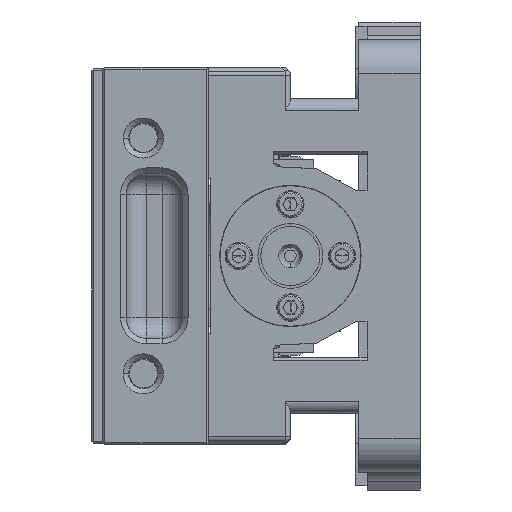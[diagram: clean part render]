
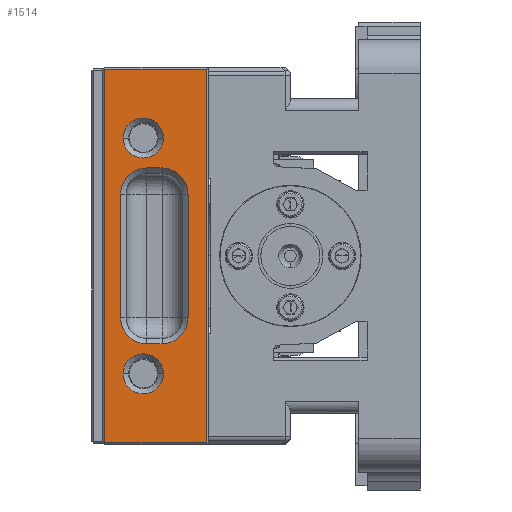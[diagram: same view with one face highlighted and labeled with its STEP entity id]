
A CAD part, left-side view. The second image highlights one B-rep face of the part: STEP entity #1514.
In plain terms, the highlighted planar face has unit normal (-1, 0, 0).
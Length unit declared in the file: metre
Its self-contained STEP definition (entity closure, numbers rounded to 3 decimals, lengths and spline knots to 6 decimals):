
#1514=ADVANCED_FACE('0:4746',(#3368,#3369,#3370,#3371),#3372,.T.);
#3368=FACE_OUTER_BOUND('',#6232,.T.);
#3369=FACE_BOUND('',#6233,.T.);
#3370=FACE_BOUND('',#6234,.T.);
#3371=FACE_BOUND('',#6235,.T.);
#3372=PLANE('',#6236);
#6232=EDGE_LOOP('',(#12121,#12122,#12123,#12124));
#6233=EDGE_LOOP('',(#12125,#12126));
#6234=EDGE_LOOP('',(#12127,#12128));
#6235=EDGE_LOOP('',(#12129,#12130,#12131,#12132,#12133,#12134,#12135,#12136));
#6236=AXIS2_PLACEMENT_3D('',#12137,#12138,#12139);
#12121=ORIENTED_EDGE('',*,*,#17786,.T.);
#12122=ORIENTED_EDGE('',*,*,#17737,.T.);
#12123=ORIENTED_EDGE('',*,*,#17762,.T.);
#12124=ORIENTED_EDGE('',*,*,#17882,.T.);
#12125=ORIENTED_EDGE('',*,*,#17686,.F.);
#12126=ORIENTED_EDGE('',*,*,#17699,.F.);
#12127=ORIENTED_EDGE('',*,*,#17679,.F.);
#12128=ORIENTED_EDGE('',*,*,#17701,.F.);
#12129=ORIENTED_EDGE('',*,*,#17833,.F.);
#12130=ORIENTED_EDGE('',*,*,#17839,.F.);
#12131=ORIENTED_EDGE('',*,*,#17845,.F.);
#12132=ORIENTED_EDGE('',*,*,#17847,.F.);
#12133=ORIENTED_EDGE('',*,*,#17841,.F.);
#12134=ORIENTED_EDGE('',*,*,#17835,.F.);
#12135=ORIENTED_EDGE('',*,*,#17829,.F.);
#12136=ORIENTED_EDGE('',*,*,#17826,.F.);
#12137=CARTESIAN_POINT('',(-0.109499,0.085937,0.052324));
#12138=DIRECTION('',(-1.0,0.,0.));
#12139=DIRECTION('',(0.,1.0,0.0));
#17679=EDGE_CURVE('0:4896',#21631,#21633,#21634,.T.);
#17686=EDGE_CURVE('0:4890',#21644,#21646,#21647,.T.);
#17699=EDGE_CURVE('0:4890',#21646,#21644,#21664,.T.);
#17701=EDGE_CURVE('0:4896',#21633,#21631,#21666,.T.);
#17737=EDGE_CURVE('0:5040',#21707,#21720,#21722,.T.);
#17762=EDGE_CURVE('0:5115',#21720,#21762,#21764,.T.);
#17786=EDGE_CURVE('0:5187',#21804,#21707,#21805,.T.);
#17826=EDGE_CURVE('0:5307',#21864,#21867,#21868,.T.);
#17829=EDGE_CURVE('0:5316',#21867,#21872,#21873,.T.);
#17833=EDGE_CURVE('0:5328',#21877,#21864,#21880,.T.);
#17835=EDGE_CURVE('0:5334',#21872,#21882,#21883,.T.);
#17839=EDGE_CURVE('0:5346',#21887,#21877,#21890,.T.);
#17841=EDGE_CURVE('0:5352',#21882,#21892,#21893,.T.);
#17845=EDGE_CURVE('0:5364',#21897,#21887,#21900,.T.);
#17847=EDGE_CURVE('0:5370',#21892,#21897,#21902,.T.);
#17882=EDGE_CURVE('0:5475',#21762,#21804,#21953,.T.);
#21631=VERTEX_POINT('NONE',#26995);
#21633=VERTEX_POINT('',#26998);
#21634=CIRCLE('',#26999,0.005398);
#21644=VERTEX_POINT('NONE',#27012);
#21646=VERTEX_POINT('',#27015);
#21647=CIRCLE('',#27016,0.005398);
#21664=CIRCLE('',#27038,0.005398);
#21666=CIRCLE('',#27040,0.005398);
#21707=VERTEX_POINT('NONE',#27145);
#21720=VERTEX_POINT('NONE',#27164);
#21722=LINE('',#27167,#27168);
#21762=VERTEX_POINT('NONE',#27228);
#21764=LINE('',#27231,#27232);
#21804=VERTEX_POINT('NONE',#27292);
#21805=LINE('',#27293,#27294);
#21864=VERTEX_POINT('NONE',#27389);
#21867=VERTEX_POINT('NONE',#27393);
#21868=LINE('',#27394,#27395);
#21872=VERTEX_POINT('NONE',#27401);
#21873=CIRCLE('',#27402,0.007017);
#21877=VERTEX_POINT('NONE',#27407);
#21880=CIRCLE('',#27411,0.007017);
#21882=VERTEX_POINT('NONE',#27413);
#21883=LINE('',#27414,#27415);
#21887=VERTEX_POINT('NONE',#27421);
#21890=LINE('',#27425,#27426);
#21892=VERTEX_POINT('NONE',#27429);
#21893=CIRCLE('',#27430,0.007017);
#21897=VERTEX_POINT('NONE',#27435);
#21900=CIRCLE('',#27439,0.007017);
#21902=LINE('',#27441,#27442);
#21953=LINE('',#27515,#27516);
#26995=CARTESIAN_POINT('',(-0.109499,0.080463,0.03175));
#26998=CARTESIAN_POINT('',(-0.109499,0.069668,0.03175));
#26999=AXIS2_PLACEMENT_3D('',#32348,#32349,#32350);
#27012=CARTESIAN_POINT('',(-0.109499,0.080463,-0.03175));
#27015=CARTESIAN_POINT('',(-0.109499,0.069668,-0.03175));
#27016=AXIS2_PLACEMENT_3D('',#32361,#32362,#32363);
#27038=AXIS2_PLACEMENT_3D('',#32390,#32391,#32392);
#27040=AXIS2_PLACEMENT_3D('',#32396,#32397,#32398);
#27145=CARTESIAN_POINT('',(-0.109499,0.058124,-0.050292));
#27164=CARTESIAN_POINT('',(-0.109499,0.058124,0.050292));
#27167=CARTESIAN_POINT('',(-0.109499,0.058124,0.052324));
#27168=VECTOR('',#32458,1.0);
#27228=CARTESIAN_POINT('',(-0.109499,0.085429,0.050292));
#27231=CARTESIAN_POINT('',(-0.109499,0.085937,0.050292));
#27232=VECTOR('',#32489,1.0);
#27292=CARTESIAN_POINT('',(-0.109499,0.085429,-0.050292));
#27293=CARTESIAN_POINT('',(-0.109499,0.057616,-0.050292));
#27294=VECTOR('',#32519,1.0);
#27389=CARTESIAN_POINT('',(-0.109499,0.074157,-0.023686));
#27393=CARTESIAN_POINT('',(-0.109499,0.07003,-0.023686));
#27394=CARTESIAN_POINT('',(-0.109499,0.064474,-0.023686));
#27395=VECTOR('',#32563,1.0);
#27401=CARTESIAN_POINT('',(-0.109499,0.063013,-0.016669));
#27402=AXIS2_PLACEMENT_3D('',#32566,#32567,#32568);
#27407=CARTESIAN_POINT('',(-0.109499,0.081174,-0.016669));
#27411=AXIS2_PLACEMENT_3D('',#32574,#32575,#32576);
#27413=CARTESIAN_POINT('',(-0.109499,0.063013,0.016669));
#27414=CARTESIAN_POINT('',(-0.109499,0.063013,-0.022225));
#27415=VECTOR('',#32580,1.0);
#27421=CARTESIAN_POINT('',(-0.109499,0.081174,0.016669));
#27425=CARTESIAN_POINT('',(-0.109499,0.081174,-0.022225));
#27426=VECTOR('',#32584,1.0);
#27429=CARTESIAN_POINT('',(-0.109499,0.07003,0.023686));
#27430=AXIS2_PLACEMENT_3D('',#32586,#32587,#32588);
#27435=CARTESIAN_POINT('',(-0.109499,0.074157,0.023686));
#27439=AXIS2_PLACEMENT_3D('',#32594,#32595,#32596);
#27441=CARTESIAN_POINT('',(-0.109499,0.064474,0.023686));
#27442=VECTOR('',#32600,1.0);
#27515=CARTESIAN_POINT('',(-0.109499,0.085429,0.052324));
#27516=VECTOR('',#32659,1.0);
#32348=CARTESIAN_POINT('',(-0.109499,0.075065,0.03175));
#32349=DIRECTION('',(-1.0,0.0,0.));
#32350=DIRECTION('',(0.0,1.0,0.0));
#32361=CARTESIAN_POINT('',(-0.109499,0.075065,-0.03175));
#32362=DIRECTION('',(-1.0,0.0,0.));
#32363=DIRECTION('',(0.0,1.0,0.0));
#32390=CARTESIAN_POINT('',(-0.109499,0.075065,-0.03175));
#32391=DIRECTION('',(-1.0,0.0,0.));
#32392=DIRECTION('',(0.0,1.0,0.0));
#32396=CARTESIAN_POINT('',(-0.109499,0.075065,0.03175));
#32397=DIRECTION('',(-1.0,0.0,0.));
#32398=DIRECTION('',(0.0,1.0,0.0));
#32458=DIRECTION('',(0.,0.0,1.0));
#32489=DIRECTION('',(0.,1.0,0.));
#32519=DIRECTION('',(0.,-1.0,0.));
#32563=DIRECTION('',(0.,-1.0,0.));
#32566=CARTESIAN_POINT('',(-0.109499,0.07003,-0.016669));
#32567=DIRECTION('',(-1.0,0.0,0.));
#32568=DIRECTION('',(0.0,1.0,0.0));
#32574=CARTESIAN_POINT('',(-0.109499,0.074157,-0.016669));
#32575=DIRECTION('',(-1.0,0.0,0.));
#32576=DIRECTION('',(0.0,1.0,0.0));
#32580=DIRECTION('',(0.,-0.0,1.0));
#32584=DIRECTION('',(0.,-0.0,-1.0));
#32586=CARTESIAN_POINT('',(-0.109499,0.07003,0.016669));
#32587=DIRECTION('',(-1.0,0.0,0.));
#32588=DIRECTION('',(0.0,1.0,0.0));
#32594=CARTESIAN_POINT('',(-0.109499,0.074157,0.016669));
#32595=DIRECTION('',(-1.0,0.0,0.));
#32596=DIRECTION('',(0.0,1.0,0.0));
#32600=DIRECTION('',(0.,1.0,0.));
#32659=DIRECTION('',(0.,0.0,-1.0));
